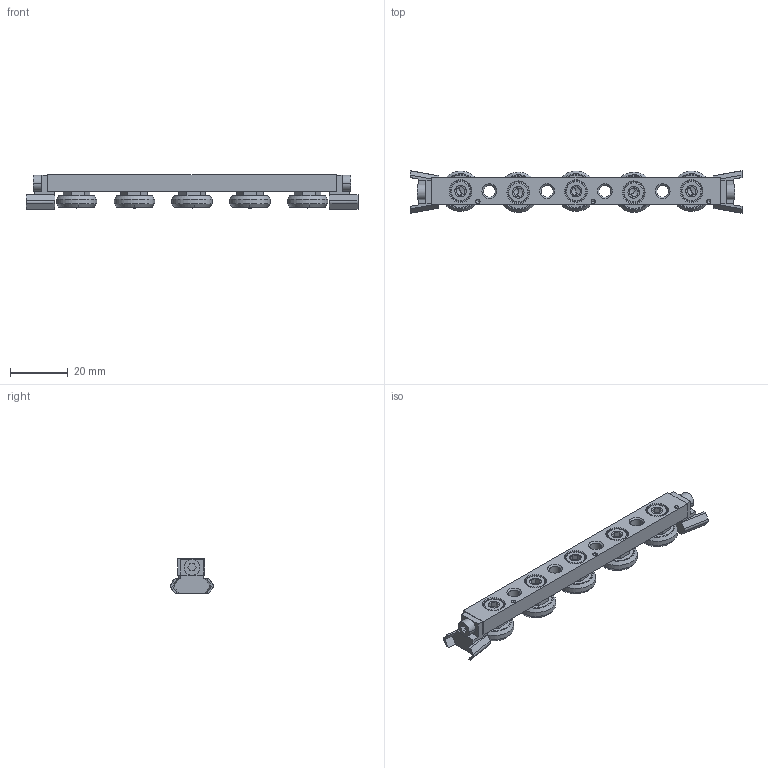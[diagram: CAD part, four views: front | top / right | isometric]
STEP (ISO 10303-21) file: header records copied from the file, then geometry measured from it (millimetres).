
FILE_DESCRIPTION (( 'STEP AP203' ), '1' );
FILE_NAME ('L1918.CSW18-100-2RST.step', '2019-06-29T22:05:50', ( '' ), ( '' ), 'SwSTEP 2.0', 'SolidWorks 2017', '' );
FILE_SCHEMA (( 'CONFIG_CONTROL_DESIGN' ));
Length unit declared in the file: millimetre
Products named in the file (6): Part8; Part1_L1918.CSW18-100-2RST; Part4; L1918.CSW18-100-2RST; Part5; Part6
Assembly tree (15 placements, depth 2):
  L1918.CSW18-100-2RST
    Part1_L1918.CSW18-100-2RST
    Part8  x7
    Part4  x3
    Part5  x2
    Part6  x2
Bounding box: 115 x 14.8 x 11.95 mm (x, y, z)
Volume: 9097 mm3; surface area: 8979.4 mm2
Topology: 15 solids, 15 shells, 491 faces, 1144 edges, 704 vertices
Faces by surface type: plane 241, cone 136, cylinder 90, torus 24
Entity records: 7041 total; most frequent: CARTESIAN_POINT 1132, DIRECTION 1128, ORIENTED_EDGE 968, EDGE_CURVE 484, AXIS2_PLACEMENT_3D 431, VERTEX_POINT 310, VECTOR 266, LINE 266
